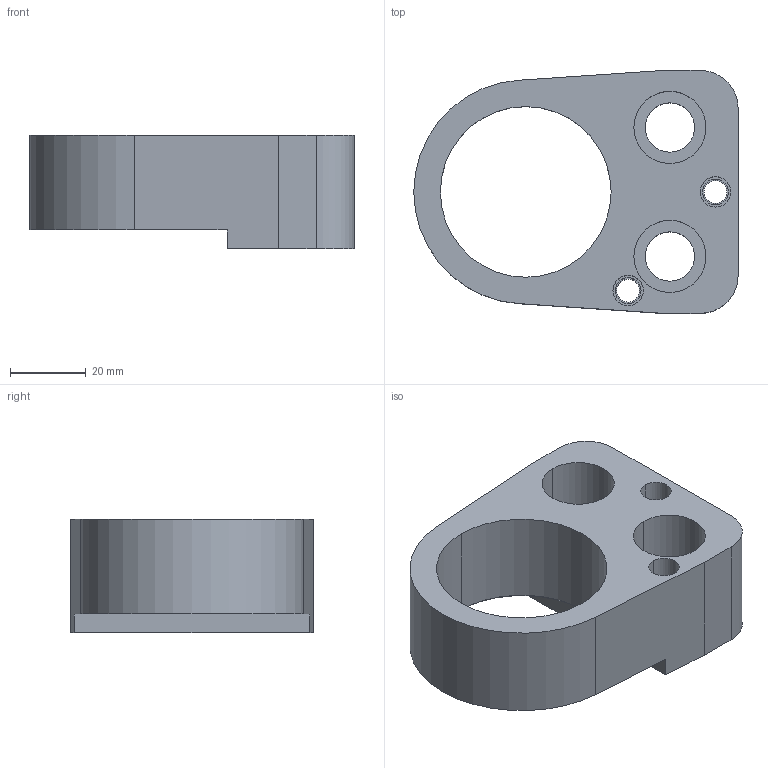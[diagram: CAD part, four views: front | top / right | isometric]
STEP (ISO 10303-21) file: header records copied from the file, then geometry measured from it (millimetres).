
FILE_DESCRIPTION(/* description */ (''),/* implementation_level */ '2;1');
FILE_NAME(/* name */ '3d_dp-fn45_03695_r00.stp',/* time_stamp */ '2011-01-10T14:15:56+09:00',/* author */ ('MISUMI'),/* organization */ (''),/* preprocessor_version */ 'ST-DEVELOPER v11',/* originating_system */ 'UGS - NX 5.0',/* authorisation */ '');
FILE_SCHEMA (('CONFIG_CONTROL_DESIGN'));
Length unit declared in the file: millimetre
Products named in the file (1): 3d_dp-fn45_03695_r00
Bounding box: 85.5 x 64 x 30 mm (x, y, z)
Volume: 76557.4 mm3; surface area: 21064 mm2
Topology: 1 solids, 1 shells, 42 faces, 104 edges, 69 vertices
Faces by surface type: cylinder 25, plane 15, cone 2
Entity records: 1380 total; most frequent: DIRECTION 242, CARTESIAN_POINT 219, ORIENTED_EDGE 208, EDGE_CURVE 104, AXIS2_PLACEMENT_3D 96, VERTEX_POINT 69, EDGE_LOOP 57, CIRCLE 53
